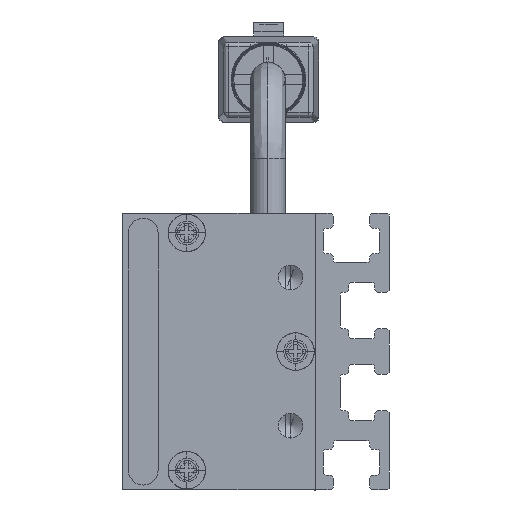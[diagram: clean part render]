
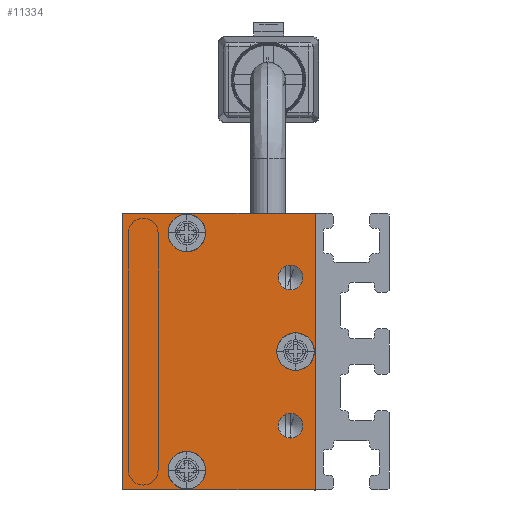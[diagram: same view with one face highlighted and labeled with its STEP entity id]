
A CAD part, left-side view. The second image highlights one B-rep face of the part: STEP entity #11334.
In plain terms, the highlighted planar face has unit normal (-1, 0, 0) as drawn and (0, 0, -1) by its records, which use the part's own axes.
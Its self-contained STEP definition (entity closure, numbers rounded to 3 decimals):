
#366 = VECTOR ( 'NONE', #14040, 1000. ) ;
#393 = VERTEX_POINT ( 'NONE', #7382 ) ;
#557 = DIRECTION ( 'NONE',  ( -1., 0., 0. ) ) ;
#749 = AXIS2_PLACEMENT_3D ( 'NONE', #3556, #4682, #3484 ) ;
#752 = EDGE_CURVE ( 'NONE', #13226, #11348, #11929, .T. ) ;
#888 = CIRCLE ( 'NONE', #8325, 1.9 ) ;
#926 = CARTESIAN_POINT ( 'NONE',  ( 14., 19.5, -2.5 ) ) ;
#1086 = CARTESIAN_POINT ( 'NONE',  ( -1.9, 2., -2.5 ) ) ;
#1105 = CARTESIAN_POINT ( 'NONE',  ( 12., 13., -2.5 ) ) ;
#1141 = ORIENTED_EDGE ( 'NONE', *, *, #1539, .F. ) ;
#1202 = CIRCLE ( 'NONE', #1228, 1.9 ) ;
#1214 = DIRECTION ( 'NONE',  ( -1., 0., 0. ) ) ;
#1228 = AXIS2_PLACEMENT_3D ( 'NONE', #4990, #1826, #11385 ) ;
#1363 = CARTESIAN_POINT ( 'NONE',  ( 14., 0., -2.5 ) ) ;
#1395 = VERTEX_POINT ( 'NONE', #9028 ) ;
#1463 = ORIENTED_EDGE ( 'NONE', *, *, #12459, .F. ) ;
#1539 = EDGE_CURVE ( 'NONE', #8990, #7045, #1202, .T. ) ;
#1594 = DIRECTION ( 'NONE',  ( 1., 0., 0. ) ) ;
#1712 = AXIS2_PLACEMENT_3D ( 'NONE', #10256, #9316, #557 ) ;
#1826 = DIRECTION ( 'NONE',  ( 0., 0., -1. ) ) ;
#1871 = ORIENTED_EDGE ( 'NONE', *, *, #6325, .F. ) ;
#1904 = CARTESIAN_POINT ( 'NONE',  ( -13.9, 13., -2.5 ) ) ;
#1918 = AXIS2_PLACEMENT_3D ( 'NONE', #7070, #2702, #13827 ) ;
#2122 = ORIENTED_EDGE ( 'NONE', *, *, #3932, .F. ) ;
#2187 = EDGE_CURVE ( 'NONE', #1395, #2734, #3826, .T. ) ;
#2207 = VERTEX_POINT ( 'NONE', #10424 ) ;
#2293 = AXIS2_PLACEMENT_3D ( 'NONE', #7287, #12777, #13911 ) ;
#2559 = CIRCLE ( 'NONE', #749, 1.9 ) ;
#2613 = CIRCLE ( 'NONE', #1712, 1.9 ) ;
#2702 = DIRECTION ( 'NONE',  ( 0., 0., -1. ) ) ;
#2723 = EDGE_CURVE ( 'NONE', #12838, #393, #2559, .T. ) ;
#2727 = VERTEX_POINT ( 'NONE', #13427 ) ;
#2734 = VERTEX_POINT ( 'NONE', #7863 ) ;
#2948 = CIRCLE ( 'NONE', #10652, 1.25 ) ;
#3140 = DIRECTION ( 'NONE',  ( -1., 0., 0. ) ) ;
#3298 = ORIENTED_EDGE ( 'NONE', *, *, #752, .F. ) ;
#3484 = DIRECTION ( 'NONE',  ( -1., 0., 0. ) ) ;
#3556 = CARTESIAN_POINT ( 'NONE',  ( -12., 13., -2.5 ) ) ;
#3604 = CARTESIAN_POINT ( 'NONE',  ( -14., 19.5, -2.5 ) ) ;
#3744 = DIRECTION ( 'NONE',  ( 0., 0., -1. ) ) ;
#3824 = DIRECTION ( 'NONE',  ( 0., 0., -1. ) ) ;
#3826 = LINE ( 'NONE', #9135, #7060 ) ;
#3932 = EDGE_CURVE ( 'NONE', #7045, #8990, #4604, .T. ) ;
#4022 = CARTESIAN_POINT ( 'NONE',  ( -7.5, 2.5, -2.5 ) ) ;
#4099 = FACE_BOUND ( 'NONE', #9676, .T. ) ;
#4153 = AXIS2_PLACEMENT_3D ( 'NONE', #6519, #4391, #9917 ) ;
#4217 = ORIENTED_EDGE ( 'NONE', *, *, #8727, .F. ) ;
#4223 = CARTESIAN_POINT ( 'NONE',  ( 10.1, 13., -2.5 ) ) ;
#4242 = FACE_OUTER_BOUND ( 'NONE', #9535, .T. ) ;
#4359 = ORIENTED_EDGE ( 'NONE', *, *, #5809, .F. ) ;
#4377 = VERTEX_POINT ( 'NONE', #1363 ) ;
#4391 = DIRECTION ( 'NONE',  ( 0., 0., -1. ) ) ;
#4441 = AXIS2_PLACEMENT_3D ( 'NONE', #4022, #3824, #11484 ) ;
#4522 = LINE ( 'NONE', #3604, #5779 ) ;
#4579 = VERTEX_POINT ( 'NONE', #4223 ) ;
#4604 = CIRCLE ( 'NONE', #4153, 1.9 ) ;
#4682 = DIRECTION ( 'NONE',  ( 0., 0., -1. ) ) ;
#4791 = CARTESIAN_POINT ( 'NONE',  ( 1.9, 2., -2.5 ) ) ;
#4959 = VECTOR ( 'NONE', #1594, 1000. ) ;
#4990 = CARTESIAN_POINT ( 'NONE',  ( 0., 2., -2.5 ) ) ;
#5737 = LINE ( 'NONE', #12425, #4959 ) ;
#5779 = VECTOR ( 'NONE', #6719, 1000. ) ;
#5809 = EDGE_CURVE ( 'NONE', #4377, #13942, #7415, .T. ) ;
#5978 = AXIS2_PLACEMENT_3D ( 'NONE', #10853, #10917, #1214 ) ;
#6053 = CARTESIAN_POINT ( 'NONE',  ( -8.75, 2.5, -2.5 ) ) ;
#6325 = EDGE_CURVE ( 'NONE', #2207, #2727, #10115, .T. ) ;
#6370 = FACE_BOUND ( 'NONE', #8268, .T. ) ;
#6519 = CARTESIAN_POINT ( 'NONE',  ( 0., 2., -2.5 ) ) ;
#6719 = DIRECTION ( 'NONE',  ( -1., 0., 0. ) ) ;
#7045 = VERTEX_POINT ( 'NONE', #4791 ) ;
#7060 = VECTOR ( 'NONE', #8134, 1000. ) ;
#7070 = CARTESIAN_POINT ( 'NONE',  ( -12., 13., -2.5 ) ) ;
#7251 = EDGE_LOOP ( 'NONE', ( #9971, #11491 ) ) ;
#7287 = CARTESIAN_POINT ( 'NONE',  ( 0., 0., -2.5 ) ) ;
#7292 = DIRECTION ( 'NONE',  ( 0., 0., -1. ) ) ;
#7382 = CARTESIAN_POINT ( 'NONE',  ( -10.1, 13., -2.5 ) ) ;
#7415 = LINE ( 'NONE', #926, #366 ) ;
#7444 = EDGE_CURVE ( 'NONE', #12686, #4579, #888, .T. ) ;
#7465 = EDGE_LOOP ( 'NONE', ( #1141, #2122 ) ) ;
#7801 = ORIENTED_EDGE ( 'NONE', *, *, #13756, .F. ) ;
#7863 = CARTESIAN_POINT ( 'NONE',  ( -14., 0., -2.5 ) ) ;
#8057 = DIRECTION ( 'NONE',  ( -1., 0., 0. ) ) ;
#8134 = DIRECTION ( 'NONE',  ( 0., -1., 0. ) ) ;
#8268 = EDGE_LOOP ( 'NONE', ( #1871, #10517 ) ) ;
#8280 = FACE_BOUND ( 'NONE', #11389, .T. ) ;
#8325 = AXIS2_PLACEMENT_3D ( 'NONE', #1105, #9720, #3140 ) ;
#8574 = DIRECTION ( 'NONE',  ( -1., 0., 0. ) ) ;
#8727 = EDGE_CURVE ( 'NONE', #2734, #4377, #5737, .T. ) ;
#8990 = VERTEX_POINT ( 'NONE', #1086 ) ;
#9028 = CARTESIAN_POINT ( 'NONE',  ( -14., 19.5, -2.5 ) ) ;
#9135 = CARTESIAN_POINT ( 'NONE',  ( -14., 0., -2.5 ) ) ;
#9140 = CIRCLE ( 'NONE', #1918, 1.9 ) ;
#9316 = DIRECTION ( 'NONE',  ( 0., 0., -1. ) ) ;
#9535 = EDGE_LOOP ( 'NONE', ( #4359, #4217, #13119, #7801 ) ) ;
#9558 = FACE_BOUND ( 'NONE', #7251, .T. ) ;
#9676 = EDGE_LOOP ( 'NONE', ( #12559, #1463 ) ) ;
#9720 = DIRECTION ( 'NONE',  ( 0., 0., -1. ) ) ;
#9818 = CIRCLE ( 'NONE', #5978, 1.25 ) ;
#9917 = DIRECTION ( 'NONE',  ( -1., 0., 0. ) ) ;
#9971 = ORIENTED_EDGE ( 'NONE', *, *, #12891, .F. ) ;
#10115 = CIRCLE ( 'NONE', #11034, 1.25 ) ;
#10256 = CARTESIAN_POINT ( 'NONE',  ( 12., 13., -2.5 ) ) ;
#10424 = CARTESIAN_POINT ( 'NONE',  ( 6.25, 2.5, -2.5 ) ) ;
#10517 = ORIENTED_EDGE ( 'NONE', *, *, #12538, .F. ) ;
#10652 = AXIS2_PLACEMENT_3D ( 'NONE', #13479, #3744, #8057 ) ;
#10674 = EDGE_CURVE ( 'NONE', #11348, #13226, #2948, .T. ) ;
#10853 = CARTESIAN_POINT ( 'NONE',  ( 7.5, 2.5, -2.5 ) ) ;
#10917 = DIRECTION ( 'NONE',  ( 0., 0., -1. ) ) ;
#11034 = AXIS2_PLACEMENT_3D ( 'NONE', #11781, #7292, #8574 ) ;
#11050 = ORIENTED_EDGE ( 'NONE', *, *, #10674, .F. ) ;
#11118 = CARTESIAN_POINT ( 'NONE',  ( 13.9, 13., -2.5 ) ) ;
#11334 = ADVANCED_FACE ( 'NONE', ( #9558, #4099, #12709, #6370, #8280, #4242 ), #13698, .T. ) ;
#11348 = VERTEX_POINT ( 'NONE', #12637 ) ;
#11385 = DIRECTION ( 'NONE',  ( -1., 0., 0. ) ) ;
#11389 = EDGE_LOOP ( 'NONE', ( #3298, #11050 ) ) ;
#11484 = DIRECTION ( 'NONE',  ( -1., 0., 0. ) ) ;
#11491 = ORIENTED_EDGE ( 'NONE', *, *, #7444, .F. ) ;
#11781 = CARTESIAN_POINT ( 'NONE',  ( 7.5, 2.5, -2.5 ) ) ;
#11929 = CIRCLE ( 'NONE', #4441, 1.25 ) ;
#12425 = CARTESIAN_POINT ( 'NONE',  ( 14., 0., -2.5 ) ) ;
#12459 = EDGE_CURVE ( 'NONE', #393, #12838, #9140, .T. ) ;
#12538 = EDGE_CURVE ( 'NONE', #2727, #2207, #9818, .T. ) ;
#12559 = ORIENTED_EDGE ( 'NONE', *, *, #2723, .F. ) ;
#12637 = CARTESIAN_POINT ( 'NONE',  ( -6.25, 2.5, -2.5 ) ) ;
#12686 = VERTEX_POINT ( 'NONE', #11118 ) ;
#12709 = FACE_BOUND ( 'NONE', #7465, .T. ) ;
#12777 = DIRECTION ( 'NONE',  ( 0., 0., -1. ) ) ;
#12838 = VERTEX_POINT ( 'NONE', #1904 ) ;
#12891 = EDGE_CURVE ( 'NONE', #4579, #12686, #2613, .T. ) ;
#13119 = ORIENTED_EDGE ( 'NONE', *, *, #2187, .F. ) ;
#13148 = CARTESIAN_POINT ( 'NONE',  ( 14., 19.5, -2.5 ) ) ;
#13226 = VERTEX_POINT ( 'NONE', #6053 ) ;
#13427 = CARTESIAN_POINT ( 'NONE',  ( 8.75, 2.5, -2.5 ) ) ;
#13479 = CARTESIAN_POINT ( 'NONE',  ( -7.5, 2.5, -2.5 ) ) ;
#13698 = PLANE ( 'NONE',  #2293 ) ;
#13756 = EDGE_CURVE ( 'NONE', #13942, #1395, #4522, .T. ) ;
#13827 = DIRECTION ( 'NONE',  ( -1., 0., 0. ) ) ;
#13911 = DIRECTION ( 'NONE',  ( -1., 0., 0. ) ) ;
#13942 = VERTEX_POINT ( 'NONE', #13148 ) ;
#14040 = DIRECTION ( 'NONE',  ( 0., 1., 0. ) ) ;
